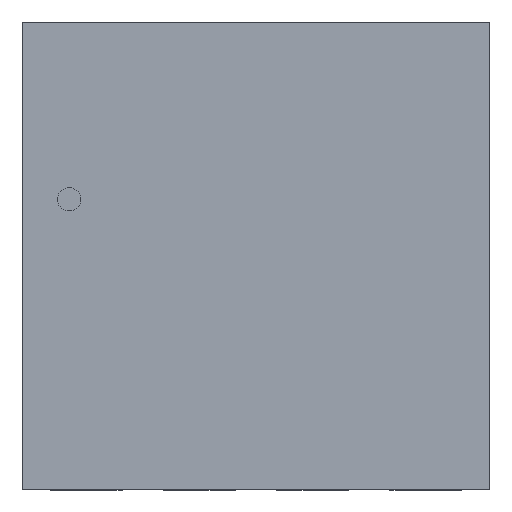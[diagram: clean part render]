
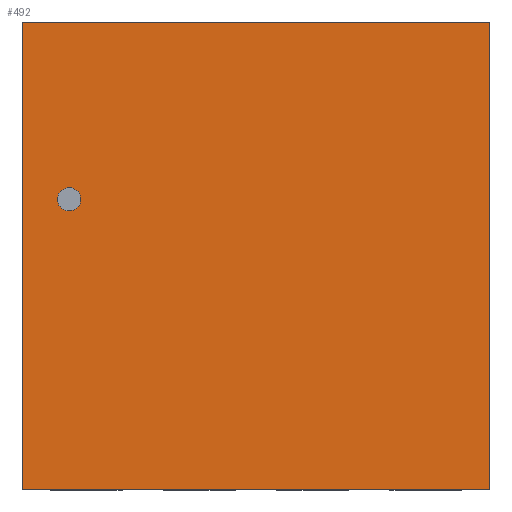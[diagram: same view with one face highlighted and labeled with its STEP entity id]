
A CAD part, top view. The second image highlights one B-rep face of the part: STEP entity #492.
In plain terms, the highlighted planar face has unit normal (0, 0, 1).
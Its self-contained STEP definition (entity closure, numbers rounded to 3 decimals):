
#268=CARTESIAN_POINT('',(0.826,-0.826,0.356));
#267=VERTEX_POINT('',#268);
#278=CARTESIAN_POINT('',(-0.826,-0.826,0.356));
#277=VERTEX_POINT('',#278);
#276=EDGE_CURVE('',#277,#267,#281,.T.);
#281=LINE('',#278,#283);
#283=VECTOR('',#284,1.651);
#284=DIRECTION('',(1.0,0.0,0.0));
#317=CARTESIAN_POINT('',(0.826,0.826,0.356));
#316=VERTEX_POINT('',#317);
#325=EDGE_CURVE('',#267,#316,#330,.T.);
#330=LINE('',#268,#332);
#332=VECTOR('',#333,1.651);
#333=DIRECTION('',(0.0,1.0,0.0));
#366=CARTESIAN_POINT('',(-0.826,0.826,0.356));
#365=VERTEX_POINT('',#366);
#374=EDGE_CURVE('',#316,#365,#379,.T.);
#379=LINE('',#317,#381);
#381=VECTOR('',#382,1.651);
#382=DIRECTION('',(-1.0,0.0,0.0));
#423=EDGE_CURVE('',#365,#277,#428,.T.);
#428=LINE('',#366,#430);
#430=VECTOR('',#431,1.651);
#431=DIRECTION('',(0.0,-1.0,0.0));
#492=ADVANCED_FACE('',(#498),#493,.T.);
#493=PLANE('',#494);
#494=AXIS2_PLACEMENT_3D('',#495,#496,#497);
#495=CARTESIAN_POINT('',(-0.826,-0.826,0.356));
#496=DIRECTION('',(0.0,0.0,1.0));
#497=DIRECTION('',(0.,1.,0.));
#498=FACE_OUTER_BOUND('',#499,.T.);
#499=EDGE_LOOP('',(#500,#510,#520,#530));
#500=ORIENTED_EDGE('',*,*,#276,.T.);
#510=ORIENTED_EDGE('',*,*,#325,.T.);
#520=ORIENTED_EDGE('',*,*,#374,.T.);
#530=ORIENTED_EDGE('',*,*,#423,.T.);
